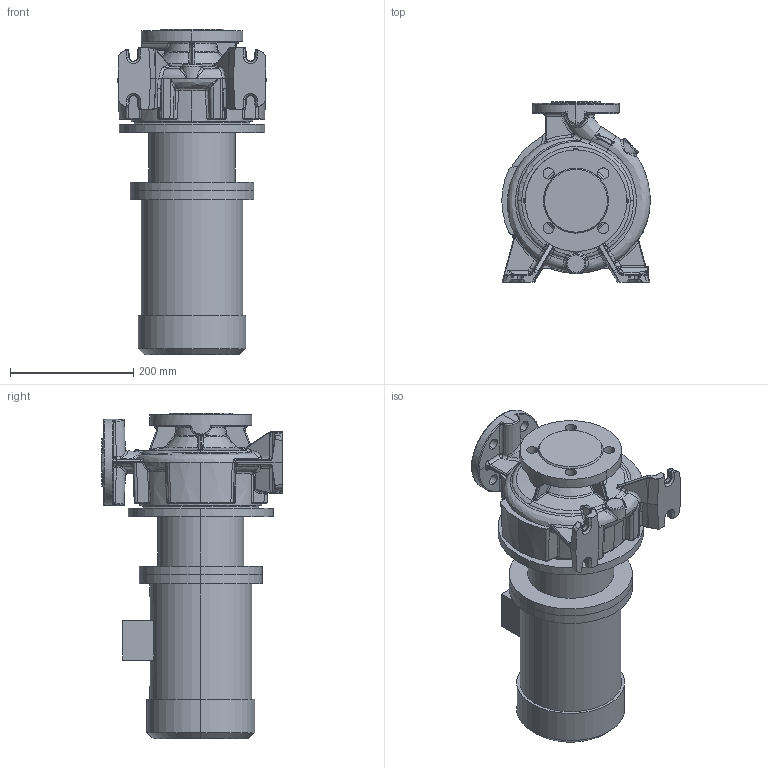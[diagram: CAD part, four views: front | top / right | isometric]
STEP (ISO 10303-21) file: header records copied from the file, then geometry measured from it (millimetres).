
FILE_DESCRIPTION (( 'STEP AP214' ), '1' );
FILE_NAME ('KRM 50-32-160.1-2-2,2.STEP', '2026-04-23T07:07:34', ( '' ), ( '' ), 'SwSTEP 2.0', 'SolidWorks 2016', '' );
FILE_SCHEMA (( 'AUTOMOTIVE_DESIGN' ));
Length unit declared in the file: millimetre
Products named in the file (1): KRM 50-32-160.1-2-2,2
Bounding box: 240.71 x 292.5 x 528.8 mm (x, y, z)
Volume: 13677743.8 mm3; surface area: 781417.9 mm2
Topology: 4 solids, 4 shells, 1060 faces, 2496 edges, 1431 vertices
Faces by surface type: bspline 527, cylinder 228, plane 151, torus 68, cone 50, sphere 36
Entity records: 103964 total; most frequent: CARTESIAN_POINT 72275, ORIENTED_EDGE 4926, DIRECTION 3236, EDGE_CURVE 2463, VERTEX_POINT 1431, AXIS2_PLACEMENT_3D 1395, EDGE_LOOP 1096, UNCERTAINTY_MEASURE_WITH_UNIT 1066
